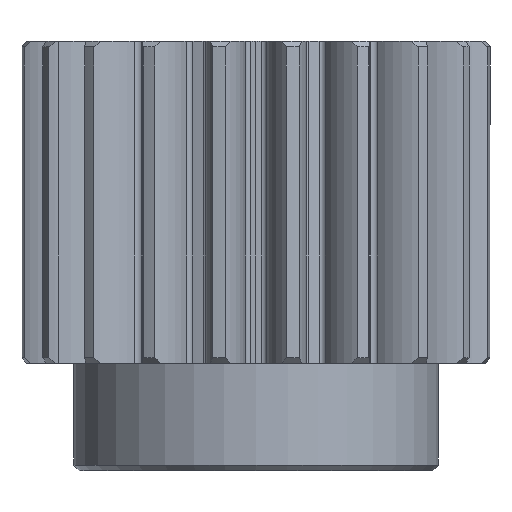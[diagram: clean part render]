
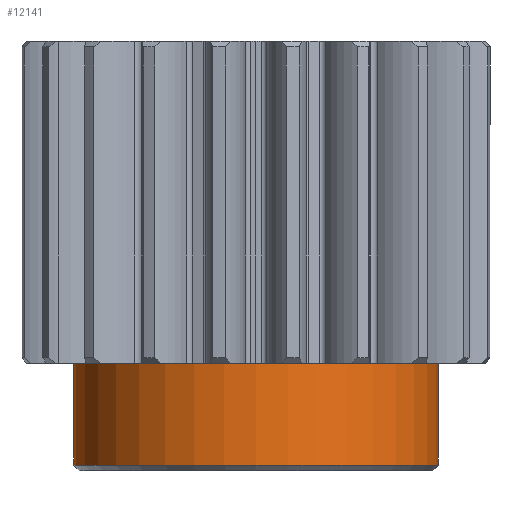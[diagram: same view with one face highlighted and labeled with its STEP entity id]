
A CAD part, left-side view. The second image highlights one B-rep face of the part: STEP entity #12141.
In plain terms, the highlighted cylindrical face has radius 8.5 mm (diameter 17 mm), a partial arc.
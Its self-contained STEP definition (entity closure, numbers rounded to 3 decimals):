
#179 = DIRECTION ( 'NONE',  ( 0., 0., 1. ) ) ;
#1425 = CARTESIAN_POINT ( 'NONE',  ( 0., 8.5, 5. ) ) ;
#2100 = CARTESIAN_POINT ( 'NONE',  ( 0., 0., 0. ) ) ;
#2302 = ORIENTED_EDGE ( 'NONE', *, *, #8363, .T. ) ;
#2501 = EDGE_CURVE ( 'NONE', #28124, #21074, #6474, .T. ) ;
#2826 = CARTESIAN_POINT ( 'NONE',  ( 0., -8.5, 5. ) ) ;
#4305 = DIRECTION ( 'NONE',  ( 0., 0., -1. ) ) ;
#4640 = ORIENTED_EDGE ( 'NONE', *, *, #2501, .T. ) ;
#5461 = VECTOR ( 'NONE', #13654, 1000. ) ;
#6474 = CIRCLE ( 'NONE', #27585, 8.5 ) ;
#7102 = ORIENTED_EDGE ( 'NONE', *, *, #24236, .F. ) ;
#8363 = EDGE_CURVE ( 'NONE', #22426, #12919, #27320, .T. ) ;
#8768 = EDGE_CURVE ( 'NONE', #12919, #28124, #12081, .T. ) ;
#10903 = FACE_OUTER_BOUND ( 'NONE', #11454, .T. ) ;
#11454 = EDGE_LOOP ( 'NONE', ( #7102, #2302, #24671, #4640 ) ) ;
#11609 = CARTESIAN_POINT ( 'NONE',  ( 0., 8.5, 0. ) ) ;
#12081 = LINE ( 'NONE', #11609, #5461 ) ;
#12141 = ADVANCED_FACE ( 'NONE', ( #10903 ), #13094, .T. ) ;
#12919 = VERTEX_POINT ( 'NONE', #1425 ) ;
#13094 = CYLINDRICAL_SURFACE ( 'NONE', #20740, 8.5 ) ;
#13654 = DIRECTION ( 'NONE',  ( 0., 0., -1. ) ) ;
#15954 = DIRECTION ( 'NONE',  ( 0., 0., -1. ) ) ;
#16358 = CARTESIAN_POINT ( 'NONE',  ( 0., 0., 0.255 ) ) ;
#19859 = LINE ( 'NONE', #25299, #20599 ) ;
#20063 = CARTESIAN_POINT ( 'NONE',  ( 0., 8.5, 0.255 ) ) ;
#20599 = VECTOR ( 'NONE', #27802, 1000. ) ;
#20740 = AXIS2_PLACEMENT_3D ( 'NONE', #2100, #4305, #25324 ) ;
#21074 = VERTEX_POINT ( 'NONE', #29528 ) ;
#22426 = VERTEX_POINT ( 'NONE', #2826 ) ;
#23095 = CARTESIAN_POINT ( 'NONE',  ( 0., 0., 5. ) ) ;
#23684 = DIRECTION ( 'NONE',  ( 0., 1., 0. ) ) ;
#24236 = EDGE_CURVE ( 'NONE', #22426, #21074, #19859, .T. ) ;
#24487 = AXIS2_PLACEMENT_3D ( 'NONE', #23095, #15954, #28005 ) ;
#24671 = ORIENTED_EDGE ( 'NONE', *, *, #8768, .T. ) ;
#25299 = CARTESIAN_POINT ( 'NONE',  ( 0., -8.5, 0. ) ) ;
#25324 = DIRECTION ( 'NONE',  ( 0., 1., 0. ) ) ;
#27320 = CIRCLE ( 'NONE', #24487, 8.5 ) ;
#27585 = AXIS2_PLACEMENT_3D ( 'NONE', #16358, #179, #23684 ) ;
#27802 = DIRECTION ( 'NONE',  ( 0., 0., -1. ) ) ;
#28005 = DIRECTION ( 'NONE',  ( 0., 1., 0. ) ) ;
#28124 = VERTEX_POINT ( 'NONE', #20063 ) ;
#29528 = CARTESIAN_POINT ( 'NONE',  ( 0., -8.5, 0.255 ) ) ;
